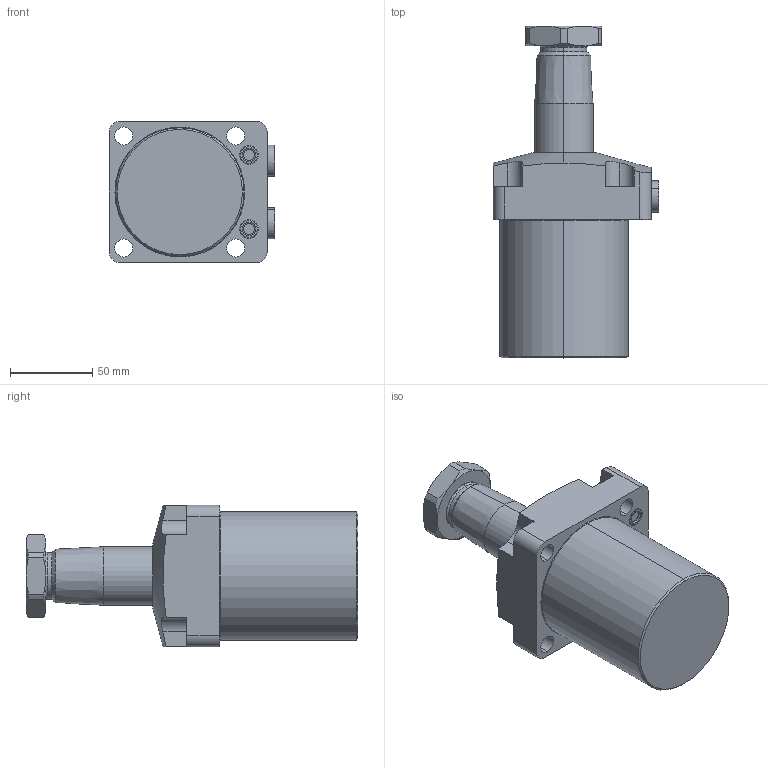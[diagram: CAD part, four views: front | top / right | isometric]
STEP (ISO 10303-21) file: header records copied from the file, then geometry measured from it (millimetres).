
FILE_DESCRIPTION(/* description */ (''),/* implementation_level */ '2;1');
FILE_NAME(/* name */ 'TRC16-R.stp',/* time_stamp */ '2025-01-04T08:43:42+08:00',/* author */ (''),/* organization */ (''),/* preprocessor_version */ 'ST-DEVELOPER v16.7',/* originating_system */ 'SIEMENS PLM Software NX 12.0',/* authorisation */ '');
FILE_SCHEMA (('AUTOMOTIVE_DESIGN { 1 0 10303 214 3 1 1 1 }'));
Length unit declared in the file: millimetre
Products named in the file (5): TRC16-R-03; TRC16-R-02; TRC16-R-04; TRC16-R-01; TRC16-R_stp
Assembly tree (5 placements, depth 2):
  TRC16-R_stp
    TRC16-R-01
    TRC16-R-04  x2
    TRC16-R-02
    TRC16-R-03
Bounding box: 100.8 x 201.5 x 86 mm (x, y, z)
Volume: 729489.3 mm3; surface area: 74638.8 mm2
Topology: 5 solids, 7 shells, 203 faces, 465 edges, 288 vertices
Faces by surface type: cylinder 73, plane 67, cone 40, torus 22, sphere 1
Entity records: 5416 total; most frequent: CARTESIAN_POINT 1092, DIRECTION 938, ORIENTED_EDGE 836, EDGE_CURVE 418, AXIS2_PLACEMENT_3D 386, VERTEX_POINT 260, EDGE_LOOP 206, CIRCLE 199
